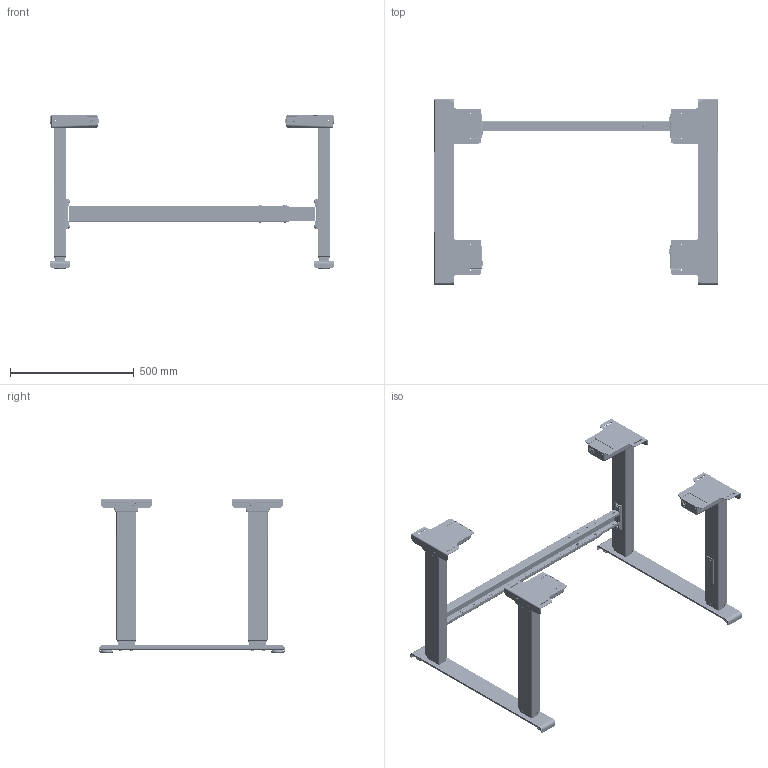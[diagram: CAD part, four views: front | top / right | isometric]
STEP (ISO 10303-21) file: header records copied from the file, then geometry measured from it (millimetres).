
FILE_DESCRIPTION(/* description */ ('Unknown'),/* implementation_level */ '2;1');
FILE_NAME(/* name */ 'Untergestell EBI 4665 S XX XX_00-Eingefahren',/* time_stamp */ '2026-09-11T13:14:35+02:00',/* author */ ('Unknown'),/* organization */ ('Unknown'),/* preprocessor_version */ 'ST-DEVELOPER v20',/* originating_system */ 'Solid Edge',/* authorisation */ 'Unknown');
FILE_SCHEMA (('AUTOMOTIVE_DESIGN {1 0 10303 214 3 1 1}'));
Products named in the file (21): Untergestell EBI 4665 S XX XX; 127.00836; 127.00838_ohne Regulierfuss; Regulierfuss; 804.00047; EBI Aussenprofil; EBI Mittelprofil; EBI Innenprofil; EBI S Aussenprofil; 127.00846; E1 Traverse aussen S; E1 Traverse innen S; Halbrundkopfschraube M6x16; Scheibe ﾘ6,4; Sechskantmutter M6; Halbrundkopfschraube M8x10; 127.00813; Halbrundkopfschraube M6x32 S; Senkschraube M6x12 S; Senkschraube M6x12; Halbrundkopfschraube M6x32
Assembly tree (80 placements, depth 3):
  Untergestell EBI 4665 S XX XX
    127.00836  x2
      127.00838_ohne Regulierfuss
      Regulierfuss
    804.00047  x4
      EBI Aussenprofil
      EBI Mittelprofil
      EBI Innenprofil
      EBI S Aussenprofil
    127.00846
      E1 Traverse aussen S
      E1 Traverse innen S
      Halbrundkopfschraube M6x16  x4
      Scheibe ﾘ6,4  x4
      Sechskantmutter M6  x4
      Halbrundkopfschraube M8x10  x4
    127.00813  x4
    Halbrundkopfschraube M6x32 S  x9
    Senkschraube M6x12 S  x16
    Senkschraube M6x12  x12
    Halbrundkopfschraube M6x32  x7
Bounding box: 1145.99 x 750 x 619.46 mm (x, y, z)
Volume: 6295932.7 mm3; surface area: 6309863.7 mm2
Topology: 100 solids, 100 shells, 8245 faces, 22519 edges, 14602 vertices
Faces by surface type: plane 4632, cylinder 2429, cone 456, torus 340, bspline 224, sphere 164
Full cylindrical faces by diameter (mm): 4.5 x16, 5 x64, 5.6 x64, 6 x56, 6.4 x4, 6.8 x8, 7 x16, 7.2 x48, 8 x4, 8.5 x4, 12 x20, 13.6 x4, 14 x4
Entity records: 75159 total; most frequent: CARTESIAN_POINT 16380, ORIENTED_EDGE 11806, DIRECTION 11295, EDGE_CURVE 5903, VERTEX_POINT 3862, LINE 3769, VECTOR 3769, AXIS2_PLACEMENT_3D 3763
